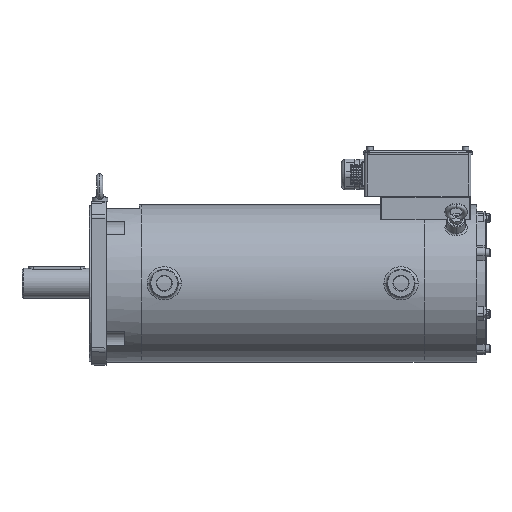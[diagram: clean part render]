
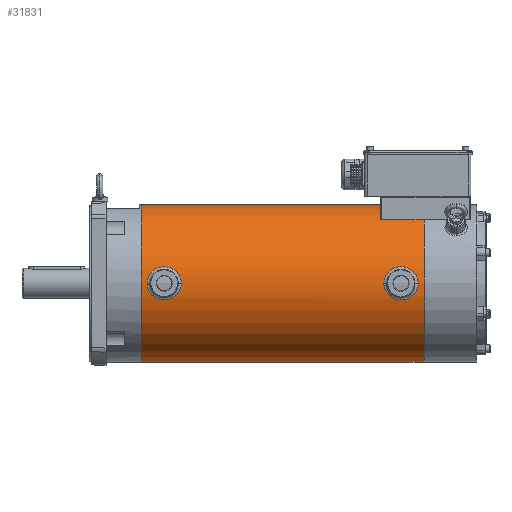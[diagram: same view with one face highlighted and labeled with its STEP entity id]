
A CAD part, top view. The second image highlights one B-rep face of the part: STEP entity #31831.
In plain terms, the highlighted cylindrical face has radius 126.5 mm (diameter 253 mm), a partial arc.
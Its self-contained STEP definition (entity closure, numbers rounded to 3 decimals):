
#23796=DIRECTION('',(-1.,0.,0.));
#23797=VECTOR('',#23796,454.5);
#23798=CARTESIAN_POINT('',(646.,126.5,
0.011));
#23799=LINE('',#23798,#23797);
#23881=CARTESIAN_POINT('',(646.,0.,
0.));
#23882=DIRECTION('',(1.,0.,0.));
#23883=DIRECTION('',(0.,1.,0.));
#23884=AXIS2_PLACEMENT_3D('',#23881,#23882,#23883);
#23886=DIRECTION('',(-1.,0.,0.));
#23887=VECTOR('',#23886,454.5);
#23888=CARTESIAN_POINT('',(646.,-126.5,
-0.011));
#23889=LINE('',#23888,#23887);
#23890=CARTESIAN_POINT('',(191.5,0.,
0.));
#23891=DIRECTION('',(-1.,0.,0.));
#23892=DIRECTION('',(0.,-1.,0.));
#23893=AXIS2_PLACEMENT_3D('',#23890,#23891,#23892);
#23895=CARTESIAN_POINT('',(581.5,-0.011,
126.5));
#23896=CARTESIAN_POINT('',(581.5,-1.856,
126.5));
#23897=CARTESIAN_POINT('',(581.895,-5.464,
126.419));
#23898=CARTESIAN_POINT('',(583.615,-10.669,
126.083));
#23899=CARTESIAN_POINT('',(586.467,-15.516,
125.573));
#23900=CARTESIAN_POINT('',(590.344,-19.716,
124.974));
#23901=CARTESIAN_POINT('',(595.073,-23.053,
124.393));
#23902=CARTESIAN_POINT('',(600.42,-25.353,
123.937));
#23903=CARTESIAN_POINT('',(606.139,-26.52,
123.689));
#23904=CARTESIAN_POINT('',(611.99,-26.508,
123.692));
#23905=CARTESIAN_POINT('',(617.722,-25.309,
123.946));
#23906=CARTESIAN_POINT('',(623.055,-22.981,
124.406));
#23907=CARTESIAN_POINT('',(627.747,-19.625,
124.987));
#23908=CARTESIAN_POINT('',(631.51,-15.537,
125.569));
#23909=CARTESIAN_POINT('',(634.424,-10.627,
126.09));
#23910=CARTESIAN_POINT('',(636.165,-5.193,
126.431));
#23911=CARTESIAN_POINT('',(636.5,-1.738,
126.5));
#23912=CARTESIAN_POINT('',(636.5,-0.011,
126.5));
#23914=CARTESIAN_POINT('',(636.5,-0.011,
126.5));
#23915=CARTESIAN_POINT('',(636.5,1.834,126.5));
#23916=CARTESIAN_POINT('',(636.105,5.442,126.42));
#23917=CARTESIAN_POINT('',(634.386,10.647,126.085));
#23918=CARTESIAN_POINT('',(631.533,15.494,125.576));
#23919=CARTESIAN_POINT('',(627.656,19.694,124.977));
#23920=CARTESIAN_POINT('',(622.927,23.031,124.397));
#23921=CARTESIAN_POINT('',(617.581,25.331,123.942));
#23922=CARTESIAN_POINT('',(611.861,26.499,123.694));
#23923=CARTESIAN_POINT('',(606.01,26.487,123.696));
#23924=CARTESIAN_POINT('',(600.279,25.287,123.951));
#23925=CARTESIAN_POINT('',(594.945,22.96,124.41));
#23926=CARTESIAN_POINT('',(590.253,19.604,124.991));
#23927=CARTESIAN_POINT('',(586.491,15.515,125.572));
#23928=CARTESIAN_POINT('',(583.576,10.605,126.092));
#23929=CARTESIAN_POINT('',(581.835,5.171,126.432));
#23930=CARTESIAN_POINT('',(581.5,1.716,126.5));
#23931=CARTESIAN_POINT('',(581.5,-0.011,
126.5));
#23933=CARTESIAN_POINT('',(201.,-0.011,
126.5));
#23934=CARTESIAN_POINT('',(201.,-1.856,
126.5));
#23935=CARTESIAN_POINT('',(201.395,-5.464,
126.419));
#23936=CARTESIAN_POINT('',(203.115,-10.669,
126.083));
#23937=CARTESIAN_POINT('',(205.967,-15.516,
125.573));
#23938=CARTESIAN_POINT('',(209.844,-19.716,
124.974));
#23939=CARTESIAN_POINT('',(214.573,-23.053,
124.393));
#23940=CARTESIAN_POINT('',(219.92,-25.353,
123.937));
#23941=CARTESIAN_POINT('',(225.639,-26.52,
123.689));
#23942=CARTESIAN_POINT('',(231.49,-26.508,
123.692));
#23943=CARTESIAN_POINT('',(237.222,-25.309,
123.946));
#23944=CARTESIAN_POINT('',(242.555,-22.981,
124.406));
#23945=CARTESIAN_POINT('',(247.247,-19.625,
124.987));
#23946=CARTESIAN_POINT('',(251.01,-15.537,
125.569));
#23947=CARTESIAN_POINT('',(253.924,-10.627,
126.09));
#23948=CARTESIAN_POINT('',(255.665,-5.193,
126.431));
#23949=CARTESIAN_POINT('',(256.,-1.738,
126.5));
#23950=CARTESIAN_POINT('',(256.,-0.011,
126.5));
#23952=CARTESIAN_POINT('',(256.,-0.011,
126.5));
#23953=CARTESIAN_POINT('',(256.,1.834,126.5));
#23954=CARTESIAN_POINT('',(255.605,5.442,126.42));
#23955=CARTESIAN_POINT('',(253.886,10.647,126.085));
#23956=CARTESIAN_POINT('',(251.033,15.494,125.576));
#23957=CARTESIAN_POINT('',(247.156,19.694,124.977));
#23958=CARTESIAN_POINT('',(242.427,23.031,124.397));
#23959=CARTESIAN_POINT('',(237.081,25.331,123.942));
#23960=CARTESIAN_POINT('',(231.361,26.499,123.694));
#23961=CARTESIAN_POINT('',(225.51,26.487,123.696));
#23962=CARTESIAN_POINT('',(219.779,25.287,123.951));
#23963=CARTESIAN_POINT('',(214.445,22.96,124.41));
#23964=CARTESIAN_POINT('',(209.753,19.604,124.991));
#23965=CARTESIAN_POINT('',(205.991,15.515,125.572));
#23966=CARTESIAN_POINT('',(203.076,10.605,126.092));
#23967=CARTESIAN_POINT('',(201.335,5.171,126.432));
#23968=CARTESIAN_POINT('',(201.,1.716,126.5));
#23969=CARTESIAN_POINT('',(201.,-0.011,
126.5));
#31380=CARTESIAN_POINT('',(646.,126.5,
0.011));
#31381=CARTESIAN_POINT('',(646.,-126.5,
-0.011));
#31382=VERTEX_POINT('',#31380);
#31383=VERTEX_POINT('',#31381);
#31384=CARTESIAN_POINT('',(191.5,126.5,
0.011));
#31385=CARTESIAN_POINT('',(191.5,-126.5,
-0.011));
#31386=VERTEX_POINT('',#31384);
#31387=VERTEX_POINT('',#31385);
#31738=VERTEX_POINT('',#23895);
#31739=VERTEX_POINT('',#23912);
#31742=VERTEX_POINT('',#23933);
#31743=VERTEX_POINT('',#23950);
#31806=CARTESIAN_POINT('',(646.,0.,
0.));
#31807=DIRECTION('',(-1.,0.,0.));
#31808=DIRECTION('',(0.,1.,0.));
#31809=AXIS2_PLACEMENT_3D('',#31806,#31807,#31808);
#31810=CYLINDRICAL_SURFACE('',#31809,126.5);
#31812=ORIENTED_EDGE('',*,*,#31811,.T.);
#31813=ORIENTED_EDGE('',*,*,#31789,.T.);
#31815=ORIENTED_EDGE('',*,*,#31814,.T.);
#31816=ORIENTED_EDGE('',*,*,#31785,.F.);
#31817=EDGE_LOOP('',(#31812,#31813,#31815,#31816));
#31818=FACE_OUTER_BOUND('',#31817,.F.);
#31820=ORIENTED_EDGE('',*,*,#31819,.T.);
#31822=ORIENTED_EDGE('',*,*,#31821,.T.);
#31823=EDGE_LOOP('',(#31820,#31822));
#31824=FACE_BOUND('',#31823,.F.);
#31826=ORIENTED_EDGE('',*,*,#31825,.T.);
#31828=ORIENTED_EDGE('',*,*,#31827,.T.);
#31829=EDGE_LOOP('',(#31826,#31828));
#31830=FACE_BOUND('',#31829,.F.);
#31831=ADVANCED_FACE('',(#31818,#31824,#31830),#31810,.T.);
#23885=CIRCLE('',#23884,126.5);
#23894=CIRCLE('',#23893,126.5);
#23913=B_SPLINE_CURVE_WITH_KNOTS('',3,(#23895,#23896,#23897,#23898,#23899,
#23900,#23901,#23902,#23903,#23904,#23905,#23906,#23907,#23908,#23909,#23910,
#23911,#23912),.UNSPECIFIED.,.F.,.F.,(4,1,1,1,1,1,1,1,1,1,1,1,1,1,1,4),(0.,
0.067,0.133,0.2,0.267,0.333,
0.4,0.467,0.533,0.6,0.667,
0.733,0.8,0.867,0.933,1.),
.UNSPECIFIED.);
#23932=B_SPLINE_CURVE_WITH_KNOTS('',3,(#23914,#23915,#23916,#23917,#23918,
#23919,#23920,#23921,#23922,#23923,#23924,#23925,#23926,#23927,#23928,#23929,
#23930,#23931),.UNSPECIFIED.,.F.,.F.,(4,1,1,1,1,1,1,1,1,1,1,1,1,1,1,4),(0.,
0.067,0.133,0.2,0.267,0.333,
0.4,0.467,0.533,0.6,0.667,
0.733,0.8,0.867,0.933,1.),
.UNSPECIFIED.);
#23951=B_SPLINE_CURVE_WITH_KNOTS('',3,(#23933,#23934,#23935,#23936,#23937,
#23938,#23939,#23940,#23941,#23942,#23943,#23944,#23945,#23946,#23947,#23948,
#23949,#23950),.UNSPECIFIED.,.F.,.F.,(4,1,1,1,1,1,1,1,1,1,1,1,1,1,1,4),(0.,
0.067,0.133,0.2,0.267,0.333,
0.4,0.467,0.533,0.6,0.667,
0.733,0.8,0.867,0.933,1.),
.UNSPECIFIED.);
#23970=B_SPLINE_CURVE_WITH_KNOTS('',3,(#23952,#23953,#23954,#23955,#23956,
#23957,#23958,#23959,#23960,#23961,#23962,#23963,#23964,#23965,#23966,#23967,
#23968,#23969),.UNSPECIFIED.,.F.,.F.,(4,1,1,1,1,1,1,1,1,1,1,1,1,1,1,4),(0.,
0.067,0.133,0.2,0.267,0.333,
0.4,0.467,0.533,0.6,0.667,
0.733,0.8,0.867,0.933,1.),
.UNSPECIFIED.);
#31785=EDGE_CURVE('',#31382,#31386,#23799,.T.);
#31789=EDGE_CURVE('',#31383,#31387,#23889,.T.);
#31811=EDGE_CURVE('',#31382,#31383,#23885,.T.);
#31814=EDGE_CURVE('',#31387,#31386,#23894,.T.);
#31819=EDGE_CURVE('',#31738,#31739,#23913,.T.);
#31821=EDGE_CURVE('',#31739,#31738,#23932,.T.);
#31825=EDGE_CURVE('',#31742,#31743,#23951,.T.);
#31827=EDGE_CURVE('',#31743,#31742,#23970,.T.);
